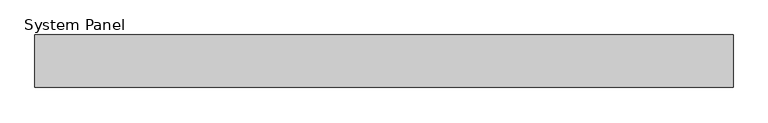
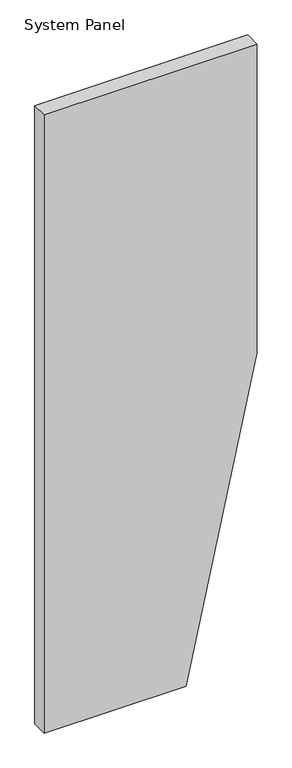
"""IFC4 building model written with IfcOpenShell, lengths in millimetres: plate geometry, System Panel : InsulWall_90mm_Plain_Surfmist."""

from ifc_helpers import new_model, si_unit, frame, origin, place, context, project, spatial, polyline, outline, extrude, source, transform, mapped, element, save


def system_panel_06d0ad0e(model_context):
    return source(origin(), model_context, "Body", "SweptSolid", [
        extrude(outline(polyline([(0.0, -600.0), (0.0, 200.0), (1839.9852118, 600.0), (3679.9704237, 600.0), (3679.9704237, -600.0), (0.0, -600.0)])), frame((0.0, -90.0, 0.0), z_axis=(0.0, 1.0, 0.0), x_axis=(0.0, 0.0, 1.0)), (0.0, 0.0, 1.0), 90.0),
    ])


if __name__ == "__main__":
    model = new_model("IFC4")
    model_context = context("Model", 3, world=origin())
    ifc_project = project(units=[si_unit("LENGTHUNIT", "METRE", prefix="MILLI")], contexts=[model_context])
    site = spatial("IfcSite", under=ifc_project)
    building = spatial("IfcBuilding", under=site)
    placement = place(None, origin())
    system_panel_shape = system_panel_06d0ad0e(model_context)
    element("IfcPlate", 1, ObjectType="System Panel : InsulWall_90mm_Plain_Surfmist", at=placement, inside=building, context=model_context, shape_type="MappedRepresentation", body=[
        mapped(system_panel_shape, transform((0.0, 0.0, 0.0), x_axis=(1.0, 0.0, 0.0), y_axis=(0.0, 1.0, 0.0), z_axis=(0.0, 0.0, 1.0))),
    ])
    save(model, "model.ifc")
